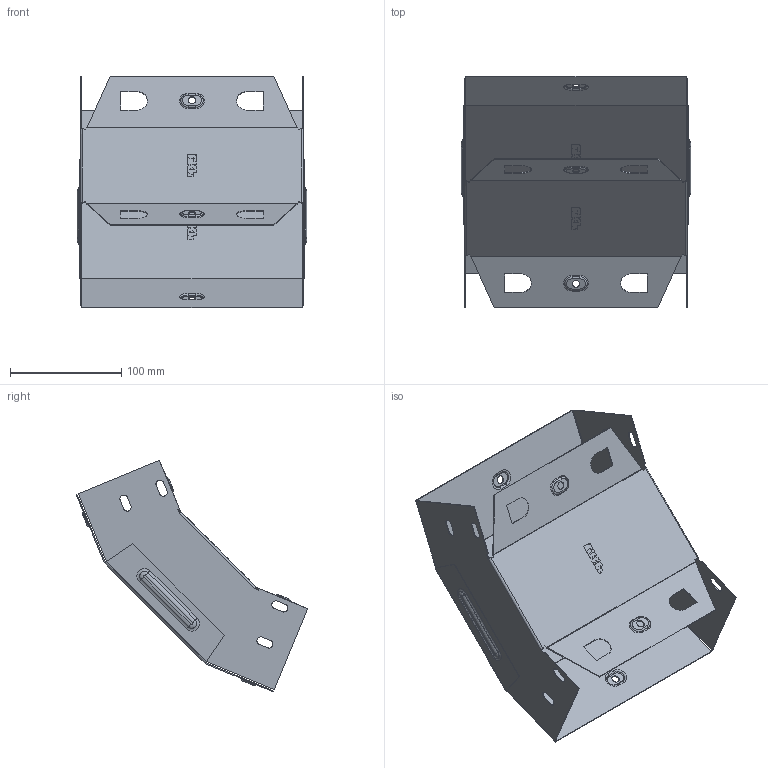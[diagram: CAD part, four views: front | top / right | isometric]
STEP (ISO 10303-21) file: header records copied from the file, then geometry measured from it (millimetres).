
FILE_DESCRIPTION (( 'STEP AP214' ), '1' );
FILE_NAME ('vo4580200_捘.STEP', '2019-06-10T08:18:24', ( '砐錪賧瘔蠈錪 Windows' ), ( '' ), 'SwSTEP 2.0', 'SolidWorks 2018', '' );
FILE_SCHEMA (( 'AUTOMOTIVE_DESIGN' ));
Length unit declared in the file: millimetre
Products named in the file (1): vo4580200_捘
Bounding box: 205.6 x 207.86 x 207.86 mm (x, y, z)
Volume: 102693.8 mm3; surface area: 259368.5 mm2
Topology: 2 solids, 2 shells, 472 faces, 1200 edges, 760 vertices
Faces by surface type: plane 254, cylinder 128, torus 64, bspline 26
Entity records: 15290 total; most frequent: CARTESIAN_POINT 3732, ORIENTED_EDGE 2400, DIRECTION 2361, EDGE_CURVE 1200, LINE 795, VECTOR 795, AXIS2_PLACEMENT_3D 783, VERTEX_POINT 760
